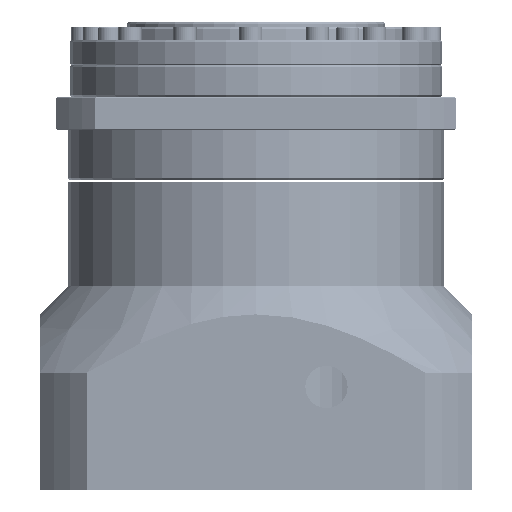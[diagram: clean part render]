
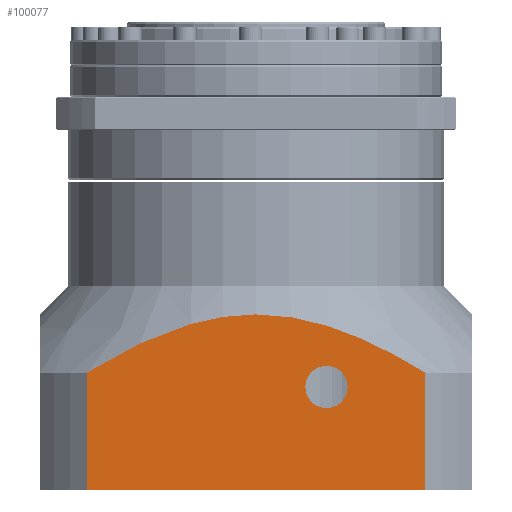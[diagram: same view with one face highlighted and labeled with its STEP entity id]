
A CAD part, left-side view. The second image highlights one B-rep face of the part: STEP entity #100077.
In plain terms, the highlighted planar face has unit normal (-1, 0, 0).
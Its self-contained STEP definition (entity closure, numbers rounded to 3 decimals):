
#12523 = DIRECTION ( 'NONE',  ( 0., 0., -1. ) ) ;
#12524 = DIRECTION ( 'NONE',  ( 1., 0., 0. ) ) ;
#12525 = CARTESIAN_POINT ( 'NONE',  ( -65., 65., -93.2 ) ) ;
#12526 = AXIS2_PLACEMENT_3D ( 'NONE', #12525, #12524, #12523 ) ;
#12528 = FACE_BOUND ( 'NONE', #101636, .T. ) ;
#12530 = PLANE ( 'NONE',  #12526 ) ;
#12531 = FACE_OUTER_BOUND ( 'NONE', #101740, .T. ) ;
#16055 = AXIS2_PLACEMENT_3D ( 'NONE', #16107, #16106, #16105 ) ;
#16056 = LINE ( 'NONE', #16086, #16085 ) ;
#16067 = CIRCLE ( 'NONE', #16055, 6.35 ) ;
#16084 = DIRECTION ( 'NONE',  ( 0., 0., 1. ) ) ;
#16085 = VECTOR ( 'NONE', #16084, 1000. ) ;
#16086 = CARTESIAN_POINT ( 'NONE',  ( -65., 50.806, -23.2 ) ) ;
#16105 = DIRECTION ( 'NONE',  ( 0., 1., 0. ) ) ;
#16106 = DIRECTION ( 'NONE',  ( -1., 0., 0. ) ) ;
#16107 = CARTESIAN_POINT ( 'NONE',  ( -65., -21.19, -62.22 ) ) ;
#16127 = CARTESIAN_POINT ( 'NONE',  ( -65., 50.806, -93.2 ) ) ;
#16434 = CARTESIAN_POINT ( 'NONE',  ( -65., -50.806, -57.9 ) ) ;
#16440 = DIRECTION ( 'NONE',  ( 0., 0., -1. ) ) ;
#16441 = VECTOR ( 'NONE', #16440, 1000. ) ;
#16442 = CARTESIAN_POINT ( 'NONE',  ( -65., -50.806, -23.2 ) ) ;
#16448 = LINE ( 'NONE', #16442, #16441 ) ;
#16474 = CARTESIAN_POINT ( 'NONE',  ( -65., -50.806, -93.2 ) ) ;
#16513 = CARTESIAN_POINT ( 'NONE',  ( -65., -1.14, -40.4 ) ) ;
#16514 = CARTESIAN_POINT ( 'NONE',  ( -65., 0., -40.4 ) ) ;
#16518 = CARTESIAN_POINT ( 'NONE',  ( -65., -2.284, -40.43 ) ) ;
#16520 = B_SPLINE_CURVE_WITH_KNOTS ( 'NONE', 3,
 ( #16514, #16513, #16518, #16571, #16570, #16569, #16568, #16567, #16566, #16565, #16564, #16563, #16562, #16561, #16560, #16559, #16558, #16557 ),
 .UNSPECIFIED., .F., .F.,
 ( 4, 2, 2, 2, 2, 2, 2, 2, 4 ),
 ( 0.235, 0.238, 0.24, 0.242, 0.248, 0.262, 0.269, 0.276, 0.289 ),
 .UNSPECIFIED. ) ;
#16557 = CARTESIAN_POINT ( 'NONE',  ( -65., -50.806, -57.9 ) ) ;
#16558 = CARTESIAN_POINT ( 'NONE',  ( -65., -46.959, -55.531 ) ) ;
#16559 = CARTESIAN_POINT ( 'NONE',  ( -65., -43.032, -53.276 ) ) ;
#16560 = CARTESIAN_POINT ( 'NONE',  ( -65., -36.959, -50.153 ) ) ;
#16561 = CARTESIAN_POINT ( 'NONE',  ( -65., -34.9, -49.154 ) ) ;
#16562 = CARTESIAN_POINT ( 'NONE',  ( -65., -30.756, -47.285 ) ) ;
#16563 = CARTESIAN_POINT ( 'NONE',  ( -65., -28.666, -46.413 ) ) ;
#16564 = CARTESIAN_POINT ( 'NONE',  ( -65., -22.33, -44.017 ) ) ;
#16565 = CARTESIAN_POINT ( 'NONE',  ( -65., -18.021, -42.713 ) ) ;
#16566 = CARTESIAN_POINT ( 'NONE',  ( -65., -11.383, -41.354 ) ) ;
#16567 = CARTESIAN_POINT ( 'NONE',  ( -65., -9.142, -41.001 ) ) ;
#16568 = CARTESIAN_POINT ( 'NONE',  ( -65., -6.298, -40.702 ) ) ;
#16569 = CARTESIAN_POINT ( 'NONE',  ( -65., -5.727, -40.649 ) ) ;
#16570 = CARTESIAN_POINT ( 'NONE',  ( -65., -4.581, -40.559 ) ) ;
#16571 = CARTESIAN_POINT ( 'NONE',  ( -65., -4.005, -40.521 ) ) ;
#16576 = DIRECTION ( 'NONE',  ( 0., 1., 0. ) ) ;
#16577 = VECTOR ( 'NONE', #16576, 1000. ) ;
#16578 = CARTESIAN_POINT ( 'NONE',  ( -65., 65., -93.2 ) ) ;
#16579 = LINE ( 'NONE', #16578, #16577 ) ;
#73480 = CARTESIAN_POINT ( 'NONE',  ( -65., 0., -40.4 ) ) ;
#74726 = B_SPLINE_CURVE_WITH_KNOTS ( 'NONE', 3,
 ( #74862, #74860, #74858, #74856, #74854, #74853, #74851, #74849, #74847, #74845, #74844, #74842, #74840, #74838 ),
 .UNSPECIFIED., .F., .F.,
 ( 4, 2, 2, 2, 2, 2, 4 ),
 ( 0.181, 0.194, 0.208, 0.215, 0.218, 0.221, 0.235 ),
 .UNSPECIFIED. ) ;
#74838 = CARTESIAN_POINT ( 'NONE',  ( -65., 0., -40.4 ) ) ;
#74840 = CARTESIAN_POINT ( 'NONE',  ( -65., 4.55, -40.4 ) ) ;
#74842 = CARTESIAN_POINT ( 'NONE',  ( -65., 9.045, -40.882 ) ) ;
#74844 = CARTESIAN_POINT ( 'NONE',  ( -65., 14.604, -42.011 ) ) ;
#74845 = CARTESIAN_POINT ( 'NONE',  ( -65., 15.713, -42.264 ) ) ;
#74847 = CARTESIAN_POINT ( 'NONE',  ( -65., 17.924, -42.818 ) ) ;
#74849 = CARTESIAN_POINT ( 'NONE',  ( -65., 19.029, -43.12 ) ) ;
#74851 = CARTESIAN_POINT ( 'NONE',  ( -65., 22.324, -44.095 ) ) ;
#74853 = CARTESIAN_POINT ( 'NONE',  ( -65., 24.48, -44.829 ) ) ;
#74854 = CARTESIAN_POINT ( 'NONE',  ( -65., 30.847, -47.241 ) ) ;
#74856 = CARTESIAN_POINT ( 'NONE',  ( -65., 34.959, -49.124 ) ) ;
#74858 = CARTESIAN_POINT ( 'NONE',  ( -65., 43.003, -53.261 ) ) ;
#74860 = CARTESIAN_POINT ( 'NONE',  ( -65., 46.936, -55.516 ) ) ;
#74862 = CARTESIAN_POINT ( 'NONE',  ( -65., 50.806, -57.9 ) ) ;
#75359 = CARTESIAN_POINT ( 'NONE',  ( -65., 50.806, -57.9 ) ) ;
#85308 = CARTESIAN_POINT ( 'NONE',  ( -65., -14.84, -62.22 ) ) ;
#85774 = CARTESIAN_POINT ( 'NONE',  ( -65., -27.54, -62.22 ) ) ;
#86139 = DIRECTION ( 'NONE',  ( 0., 1., 0. ) ) ;
#86141 = DIRECTION ( 'NONE',  ( -1., 0., 0. ) ) ;
#86143 = CARTESIAN_POINT ( 'NONE',  ( -65., -21.19, -62.22 ) ) ;
#86145 = AXIS2_PLACEMENT_3D ( 'NONE', #86143, #86141, #86139 ) ;
#86147 = CIRCLE ( 'NONE', #86145, 6.35 ) ;
#92746 = VERTEX_POINT ( 'NONE', #73480 ) ;
#93251 = EDGE_CURVE ( 'NONE', #93384, #92746, #74726, .T. ) ;
#93384 = VERTEX_POINT ( 'NONE', #75359 ) ;
#95696 = VERTEX_POINT ( 'NONE', #85308 ) ;
#95760 = VERTEX_POINT ( 'NONE', #85774 ) ;
#95811 = EDGE_CURVE ( 'NONE', #95760, #95696, #86147, .T. ) ;
#100077 = ADVANCED_FACE ( 'NONE', ( #12528, #12531 ), #12530, .F. ) ;
#101636 = EDGE_LOOP ( 'NONE', ( #101803, #101746 ) ) ;
#101662 = ORIENTED_EDGE ( 'NONE', *, *, #101948, .F. ) ;
#101695 = ORIENTED_EDGE ( 'NONE', *, *, #93251, .F. ) ;
#101722 = EDGE_CURVE ( 'NONE', #101766, #93384, #16056, .T. ) ;
#101738 = EDGE_CURVE ( 'NONE', #95696, #95760, #16067, .T. ) ;
#101740 = EDGE_LOOP ( 'NONE', ( #101695, #101752, #101662, #101947, #101946 ) ) ;
#101746 = ORIENTED_EDGE ( 'NONE', *, *, #95811, .F. ) ;
#101752 = ORIENTED_EDGE ( 'NONE', *, *, #101722, .F. ) ;
#101766 = VERTEX_POINT ( 'NONE', #16127 ) ;
#101803 = ORIENTED_EDGE ( 'NONE', *, *, #101738, .F. ) ;
#101889 = EDGE_CURVE ( 'NONE', #101891, #101908, #16448, .T. ) ;
#101891 = VERTEX_POINT ( 'NONE', #16434 ) ;
#101908 = VERTEX_POINT ( 'NONE', #16474 ) ;
#101920 = EDGE_CURVE ( 'NONE', #92746, #101891, #16520, .T. ) ;
#101946 = ORIENTED_EDGE ( 'NONE', *, *, #101920, .F. ) ;
#101947 = ORIENTED_EDGE ( 'NONE', *, *, #101889, .F. ) ;
#101948 = EDGE_CURVE ( 'NONE', #101908, #101766, #16579, .T. ) ;
